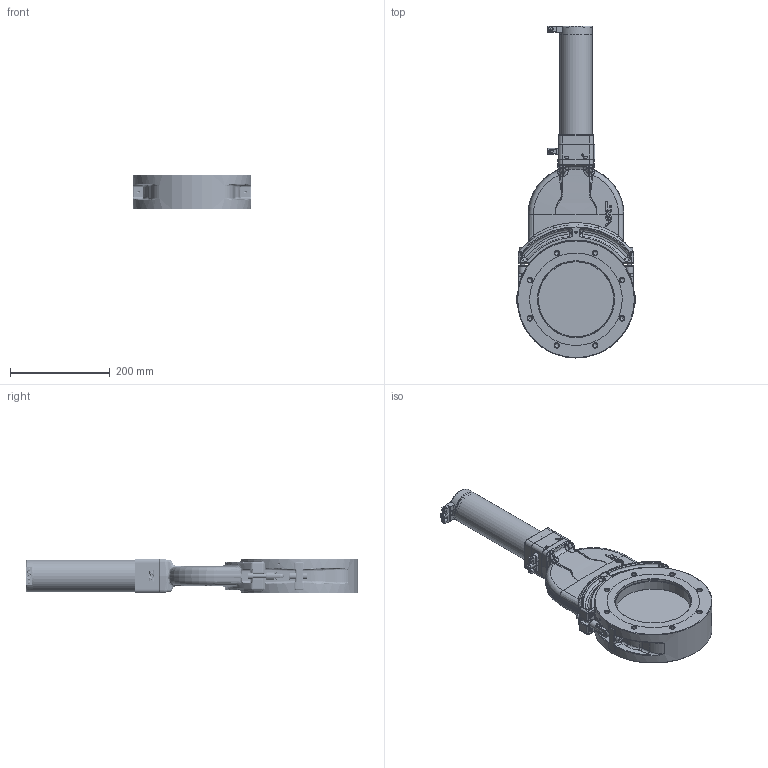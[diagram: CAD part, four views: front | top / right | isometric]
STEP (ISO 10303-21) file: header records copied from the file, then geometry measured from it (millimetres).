
FILE_DESCRIPTION(/* description */ (''),/* implementation_level */ '2;1');
FILE_NAME(/* name */ '1575959410_203.stp',/* time_stamp */ '2017-11-10T12:40:30+01:00',/* author */ (''),/* organization */ (''),/* preprocessor_version */ 'ST-DEVELOPER v16',/* originating_system */ 'SIEMENS PLM Software NX 11.0',/* authorisation */ '');
FILE_SCHEMA (('AP203_CONFIGURATION_CONTROLLED_3D_DESIGN_OF_MECHANICAL_PARTS_AND_ASSEMBLIES_MIM_LF { 1 0 10303 403 2 1 2}'));
Products named in the file (63): N-8406-013_3.2; N-8406-013_2.1; 323386.1; 323364.1; 323431.3; N-6195-007.2; 323395.1; 323388.3; N-7100-005_2.1; 323413.3; N-6121-027.2; 216311.3; 237912.3_27086ID; N-6121-038.2; 237883.2; 73662-01.1; 202839_1.2; N-6121-039.1; N-6099-417.1; 232884.1_147740ID; 214850.6_26932ID; 218183.1; 237899.1; 349117.1; N-7108-329_1.1; N-7100-210_4.1; 216010.2; 230038.2; 557326; 237903.1; 218359.3; 237891.2; 210312.2; 237882.2; 216119.1; 231511.2; N-7108-111_6.1; N-7108-113_1.2; 214883.2; 77379-01.1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
Assembly tree (89 placements, depth 5):
  220886
    N-6005-482.1  x4
    213003.1  x2
    213000.7_NX-ARRAGMNTVB (gerade) gestreckt  x2
      214173.2
      211950.1
      N-6121-026.2
      213006.3
      213005.2
    213004_1.1  x2
    78855-R1.9_NX-ARRAGMNTLM mit allen Teilen, Produktionsmodell PCA  x2
      N-6016-478.2
      T-9001-055.1
      78856-R1.3
        N-6099-417.1  x2
        N-6121-039.1
        202839_1.2
        73662-01.1
        N-8406-013_1_1.4_NX-ARRAGMNTZUSAMMENST1
          N-8406-013_2.1
          202839_1.2
          N-8406-013_3.2
      77379-01.1
    237996.7_NX-ARRAGMNTZusammenstellungsZeichn
      214883.2
      N-7108-113_1.2
      N-7108-111_6.1  x4
      231511.2
      216119.1
      237895.2
        237883.2
        N-6121-038.2
      237882.2
      210312.2  x4
      237891.2
      218359.3
      237903.1
      557326
      230038.2
      216010.2
      N-7100-210_4.1
      N-7108-329_1.1
      349117.1
      237907.2_MODEL
        237912.3_27086ID
        216311.3
        N-6121-027.2  x2
      237899.1
      87090-R1_2.3_NX-ARRAGMNTBETAETIGT
        323413.3
        N-7100-005_2.1
        323388.3
        323395.1
        N-6195-007.2
        323431.3
        323364.1
      87090-R1_2.3_NX-ARRAGMNTUNBETAETIGT
        323413.3
        N-7100-005_2.1
        323388.3
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Bounding box: 236.95 x 664.3 x 70 mm (x, y, z)
Volume: 3007020.4 mm3; surface area: 661260.6 mm2
Topology: 108 solids, 108 shells, 3956 faces, 9719 edges, 6077 vertices
Faces by surface type: plane 1538, cylinder 860, bspline 856, cone 273, torus 223, extrusion 182, sphere 22, revolution 2
Full cylindrical faces by diameter (mm): 1.4 x4, 1.5 x4, 1.93 x2, 2 x8, 2.115 x8, 2.3 x2, 2.475 x6, 2.5 x6, 2.56 x2, 2.575 x2, 3 x7, 3.2 x2, 3.3 x6, 3.5 x10, 4 x4, 4.1 x2, 4.2 x8, 4.3 x2, 4.4 x4, 4.7 x4, 4.96 x4, 5 x15, 5.5 x2, 5.6 x2, 5.65 x2, 5.7 x2, 5.8 x4, 5.92 x2, 6 x11, 6.008 x2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
Entity records: 139728 total; most frequent: CARTESIAN_POINT 58397, ORIENTED_EDGE 14906, DIRECTION 11985, EDGE_CURVE 7453, VERTEX_POINT 4950, AXIS2_PLACEMENT_3D 4697, EDGE_LOOP 4022, ADVANCED_FACE 3269
